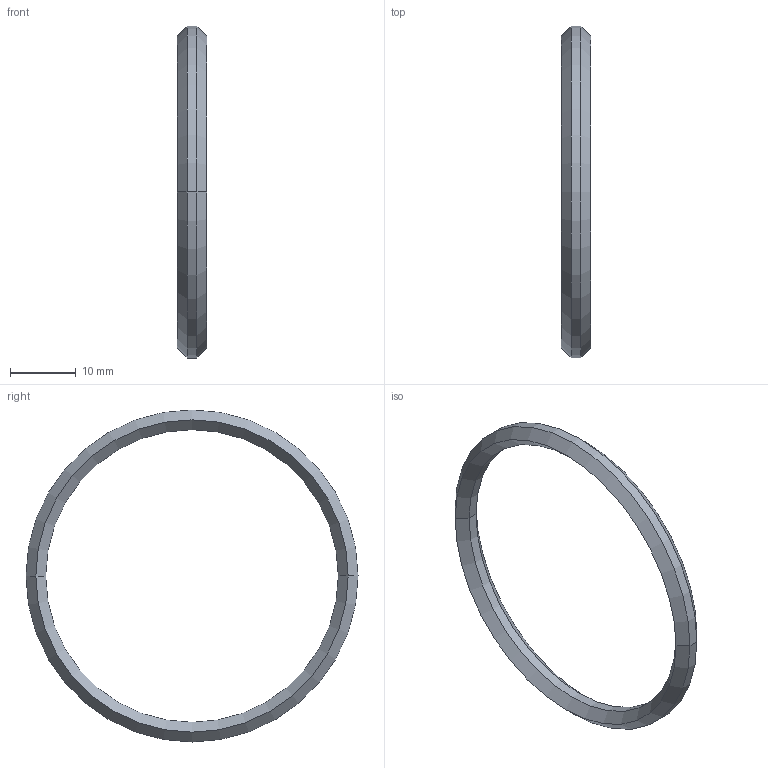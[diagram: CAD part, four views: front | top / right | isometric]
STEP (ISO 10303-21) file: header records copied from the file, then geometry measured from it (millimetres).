
FILE_DESCRIPTION((''),'2;1');
FILE_NAME('W:\211-169.stp','2003-10-08T15:34:51',('KAA'),(''),'Autodesk Inventor (R) 6.0','Autodesk Inventor (R) 6.0','');
FILE_SCHEMA(('CONFIG_CONTROL_DESIGN'));
Length unit declared in the file: millimetre
Products named in the file (1): 211-169
Bounding box: 4.5 x 50.6 x 50.6 mm (x, y, z)
Volume: 1345.9 mm3; surface area: 1717.5 mm2
Topology: 1 solids, 1 shells, 12 faces, 24 edges, 12 vertices
Faces by surface type: cone 8, cylinder 4
Entity records: 403 total; most frequent: DIRECTION 62, CARTESIAN_POINT 49, ORIENTED_EDGE 48, AXIS2_PLACEMENT_3D 25, EDGE_CURVE 24, VERTEX_POINT 12, VECTOR 12, LINE 12
